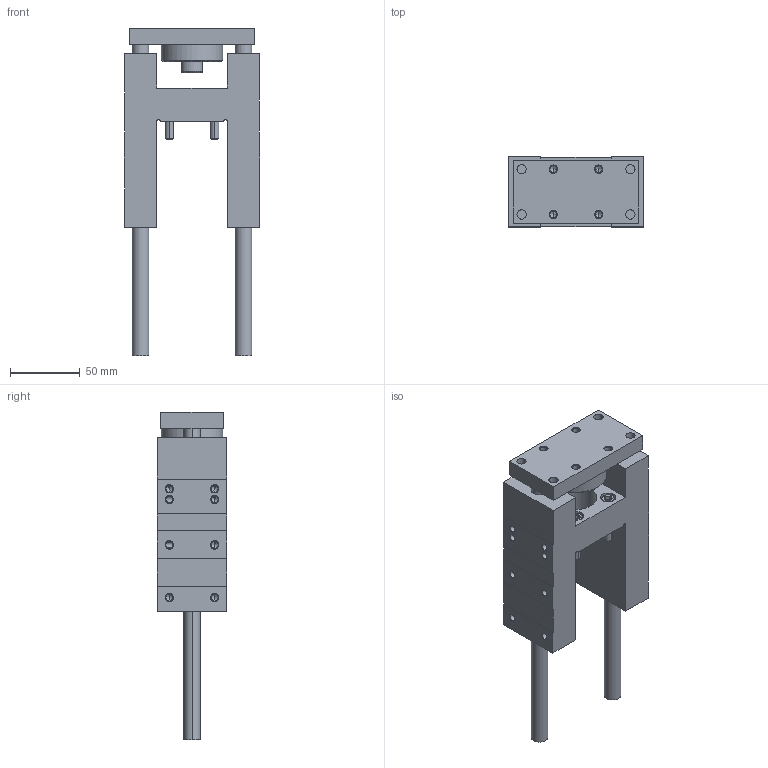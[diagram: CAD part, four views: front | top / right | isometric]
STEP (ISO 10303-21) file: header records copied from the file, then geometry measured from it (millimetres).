
FILE_DESCRIPTION (( 'STEP AP203' ), '1' );
FILE_NAME ('GB32-80.STEP', '2020-04-24T11:08:39', ( '' ), ( '' ), 'SwSTEP 2.0', 'SolidWorks 2019', '' );
FILE_SCHEMA (( 'CONFIG_CONTROL_DESIGN' ));
Length unit declared in the file: millimetre
Products named in the file (1): GB32-80
Bounding box: 97 x 50 x 235 mm (x, y, z)
Volume: 412031.9 mm3; surface area: 98388.3 mm2
Topology: 6 solids, 6 shells, 377 faces, 862 edges, 494 vertices
Faces by surface type: cone 154, plane 117, cylinder 106
Entity records: 11155 total; most frequent: CARTESIAN_POINT 2540, DIRECTION 1916, ORIENTED_EDGE 1660, EDGE_CURVE 830, AXIS2_PLACEMENT_3D 756, VERTEX_POINT 494, EDGE_LOOP 444, LINE 404
